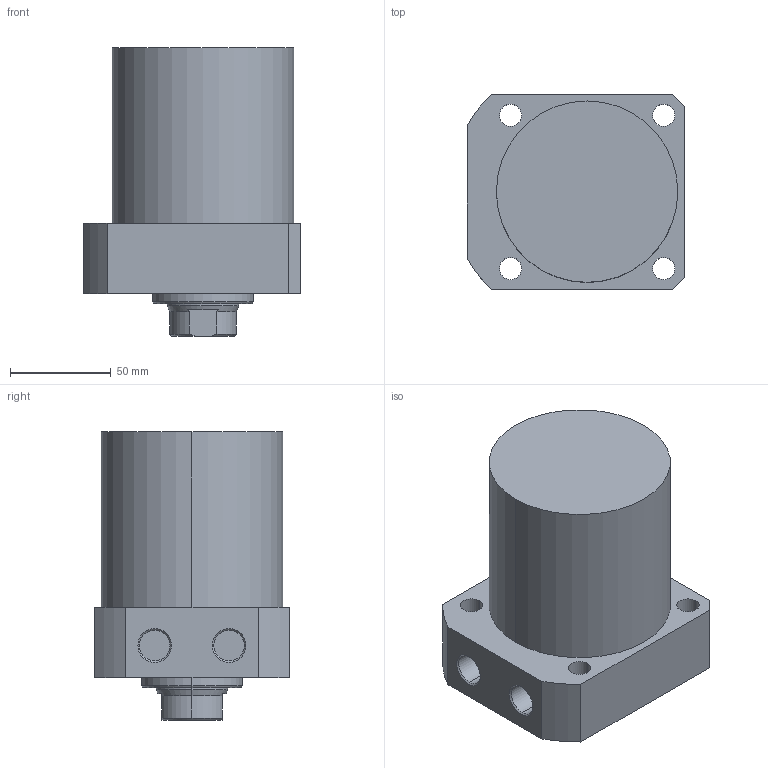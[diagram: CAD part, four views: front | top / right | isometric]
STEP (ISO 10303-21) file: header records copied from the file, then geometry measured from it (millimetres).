
FILE_DESCRIPTION (( 'STEP AP203' ), '1' );
FILE_NAME ('CLLR-090CA-065.STEP', '2019-12-19T02:19:41', ( '' ), ( '' ), 'SwSTEP 2.0', 'SolidWorks 2015', '' );
FILE_SCHEMA (( 'CONFIG_CONTROL_DESIGN' ));
Length unit declared in the file: millimetre
Products named in the file (1): CLLR-090CA-065
Bounding box: 108 x 97 x 143 mm (x, y, z)
Volume: 903733.2 mm3; surface area: 69661.2 mm2
Topology: 1 solids, 1 shells, 63 faces, 149 edges, 94 vertices
Faces by surface type: cylinder 29, plane 19, cone 15
Entity records: 1927 total; most frequent: DIRECTION 340, CARTESIAN_POINT 337, ORIENTED_EDGE 294, EDGE_CURVE 147, AXIS2_PLACEMENT_3D 137, VERTEX_POINT 94, EDGE_LOOP 79, CIRCLE 73
